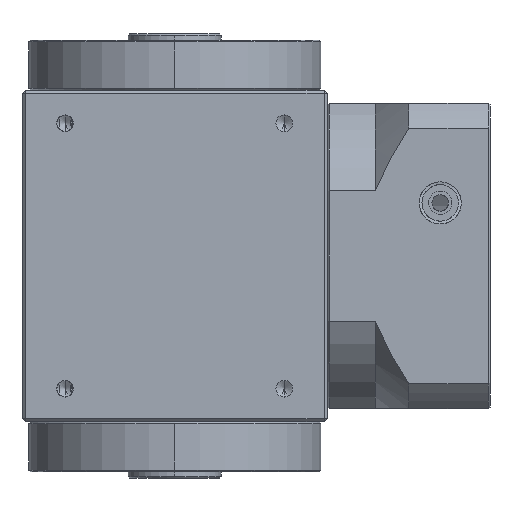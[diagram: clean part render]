
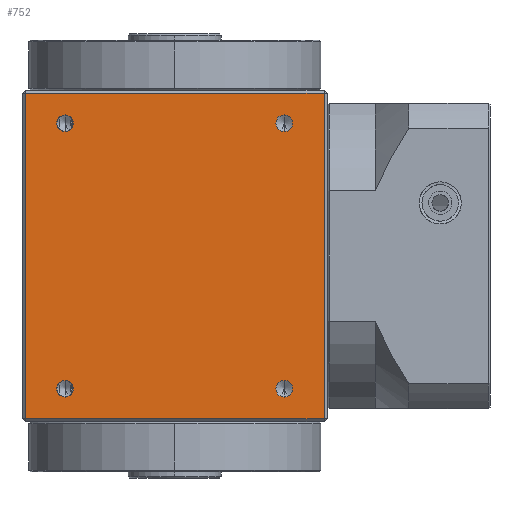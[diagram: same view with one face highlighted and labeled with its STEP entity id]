
A CAD part, left-side view. The second image highlights one B-rep face of the part: STEP entity #752.
In plain terms, the highlighted planar face has unit normal (-1, 0, 0).
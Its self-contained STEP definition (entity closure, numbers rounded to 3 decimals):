
#29 = EDGE_CURVE ( 'NONE', #3888, #4023, #7490, .T. ) ;
#30 = EDGE_CURVE ( 'NONE', #4132, #3888, #7491, .T. ) ;
#31 = EDGE_CURVE ( 'NONE', #3957, #4132, #7496, .T. ) ;
#53 = AXIS2_PLACEMENT_3D ( 'NONE', #2895, #2894, #2893 ) ;
#68 = AXIS2_PLACEMENT_3D ( 'NONE', #556, #566, #564 ) ;
#69 = AXIS2_PLACEMENT_3D ( 'NONE', #7728, #7735, #7723 ) ;
#89 = AXIS2_PLACEMENT_3D ( 'NONE', #7504, #7516, #7514 ) ;
#182 = AXIS2_PLACEMENT_3D ( 'NONE', #5493, #5494, #5495 ) ;
#186 = AXIS2_PLACEMENT_3D ( 'NONE', #5490, #5491, #5492 ) ;
#478 = EDGE_CURVE ( 'NONE', #4035, #3960, #3305, .T. ) ;
#517 = EDGE_CURVE ( 'NONE', #1178, #1182, #3357, .T. ) ;
#556 = CARTESIAN_POINT ( 'NONE',  ( -46., -33., 40. ) ) ;
#564 = DIRECTION ( 'NONE',  ( 0., 0., 1. ) ) ;
#566 = DIRECTION ( 'NONE',  ( -1., 0., 0. ) ) ;
#651 = EDGE_CURVE ( 'NONE', #3966, #1164, #3364, .T. ) ;
#752 = ADVANCED_FACE ( 'NONE', ( #3419, #3432, #3425, #3427, #3430 ), #7509, .F. ) ;
#853 = EDGE_CURVE ( 'NONE', #3960, #4035, #3618, .T. ) ;
#854 = EDGE_CURVE ( 'NONE', #4010, #4071, #3628, .T. ) ;
#1164 = VERTEX_POINT ( 'NONE', #7760 ) ;
#1178 = VERTEX_POINT ( 'NONE', #7772 ) ;
#1182 = VERTEX_POINT ( 'NONE', #7776 ) ;
#2046 = CARTESIAN_POINT ( 'NONE',  ( -46., 33., 40. ) ) ;
#2047 = DIRECTION ( 'NONE',  ( -1., 0., 0. ) ) ;
#2048 = DIRECTION ( 'NONE',  ( 0., 0., 1. ) ) ;
#2443 = CARTESIAN_POINT ( 'NONE',  ( -46., 45., 49. ) ) ;
#2510 = CARTESIAN_POINT ( 'NONE',  ( -46., -45., -49. ) ) ;
#2513 = CARTESIAN_POINT ( 'NONE',  ( -46., 33., -37.5 ) ) ;
#2519 = CARTESIAN_POINT ( 'NONE',  ( -46., 33., 42.5 ) ) ;
#2563 = CARTESIAN_POINT ( 'NONE',  ( -46., -33., -37.5 ) ) ;
#2576 = CARTESIAN_POINT ( 'NONE',  ( -46., 45., -49. ) ) ;
#2588 = CARTESIAN_POINT ( 'NONE',  ( -46., 33., -42.5 ) ) ;
#2624 = CARTESIAN_POINT ( 'NONE',  ( -46., -33., -42.5 ) ) ;
#2678 = CARTESIAN_POINT ( 'NONE',  ( -46., -45., 49. ) ) ;
#2828 = CARTESIAN_POINT ( 'NONE',  ( -46., 46., 49. ) ) ;
#2833 = CARTESIAN_POINT ( 'NONE',  ( -46., -45., 50. ) ) ;
#2893 = DIRECTION ( 'NONE',  ( 0., 0., 1. ) ) ;
#2894 = DIRECTION ( 'NONE',  ( -1., 0., 0. ) ) ;
#2895 = CARTESIAN_POINT ( 'NONE',  ( -46., 33., -40. ) ) ;
#2938 = DIRECTION ( 'NONE',  ( 0., 0., -1. ) ) ;
#2987 = DIRECTION ( 'NONE',  ( 0., 1., 0. ) ) ;
#2988 = CARTESIAN_POINT ( 'NONE',  ( -46., 45., 50. ) ) ;
#2994 = DIRECTION ( 'NONE',  ( 0., 0., 1. ) ) ;
#3127 = EDGE_CURVE ( 'NONE', #1164, #3966, #5085, .T. ) ;
#3305 = CIRCLE ( 'NONE', #53, 2.5 ) ;
#3357 = CIRCLE ( 'NONE', #68, 2.5 ) ;
#3364 = CIRCLE ( 'NONE', #69, 2.5 ) ;
#3419 = FACE_BOUND ( 'NONE', #4180, .T. ) ;
#3425 = FACE_BOUND ( 'NONE', #4111, .T. ) ;
#3427 = FACE_BOUND ( 'NONE', #4191, .T. ) ;
#3430 = FACE_OUTER_BOUND ( 'NONE', #4198, .T. ) ;
#3432 = FACE_BOUND ( 'NONE', #4182, .T. ) ;
#3618 = CIRCLE ( 'NONE', #186, 2.5 ) ;
#3628 = CIRCLE ( 'NONE', #182, 2.5 ) ;
#3888 = VERTEX_POINT ( 'NONE', #2443 ) ;
#3957 = VERTEX_POINT ( 'NONE', #2510 ) ;
#3960 = VERTEX_POINT ( 'NONE', #2513 ) ;
#3966 = VERTEX_POINT ( 'NONE', #2519 ) ;
#4010 = VERTEX_POINT ( 'NONE', #2563 ) ;
#4023 = VERTEX_POINT ( 'NONE', #2576 ) ;
#4035 = VERTEX_POINT ( 'NONE', #2588 ) ;
#4071 = VERTEX_POINT ( 'NONE', #2624 ) ;
#4111 = EDGE_LOOP ( 'NONE', ( #6917, #6918 ) ) ;
#4132 = VERTEX_POINT ( 'NONE', #2678 ) ;
#4180 = EDGE_LOOP ( 'NONE', ( #4466, #4467 ) ) ;
#4182 = EDGE_LOOP ( 'NONE', ( #4468, #4469 ) ) ;
#4191 = EDGE_LOOP ( 'NONE', ( #6919, #6920 ) ) ;
#4198 = EDGE_LOOP ( 'NONE', ( #6921, #6922, #6923, #6924 ) ) ;
#4466 = ORIENTED_EDGE ( 'NONE', *, *, #853, .F. ) ;
#4467 = ORIENTED_EDGE ( 'NONE', *, *, #478, .F. ) ;
#4468 = ORIENTED_EDGE ( 'NONE', *, *, #651, .F. ) ;
#4469 = ORIENTED_EDGE ( 'NONE', *, *, #3127, .F. ) ;
#4541 = AXIS2_PLACEMENT_3D ( 'NONE', #2046, #2047, #2048 ) ;
#4605 = AXIS2_PLACEMENT_3D ( 'NONE', #6800, #6801, #6802 ) ;
#4606 = AXIS2_PLACEMENT_3D ( 'NONE', #6805, #6806, #6807 ) ;
#5085 = CIRCLE ( 'NONE', #4541, 2.5 ) ;
#5490 = CARTESIAN_POINT ( 'NONE',  ( -46., 33., -40. ) ) ;
#5491 = DIRECTION ( 'NONE',  ( -1., 0., 0. ) ) ;
#5492 = DIRECTION ( 'NONE',  ( 0., 0., 1. ) ) ;
#5493 = CARTESIAN_POINT ( 'NONE',  ( -46., -33., -40. ) ) ;
#5494 = DIRECTION ( 'NONE',  ( -1., 0., 0. ) ) ;
#5495 = DIRECTION ( 'NONE',  ( 0., 0., 1. ) ) ;
#6312 = EDGE_CURVE ( 'NONE', #4023, #3957, #7570, .T. ) ;
#6364 = EDGE_CURVE ( 'NONE', #1182, #1178, #7636, .T. ) ;
#6365 = EDGE_CURVE ( 'NONE', #4071, #4010, #7638, .T. ) ;
#6589 = CARTESIAN_POINT ( 'NONE',  ( -46., -46., -49. ) ) ;
#6590 = DIRECTION ( 'NONE',  ( 0., -1., 0. ) ) ;
#6800 = CARTESIAN_POINT ( 'NONE',  ( -46., -33., 40. ) ) ;
#6801 = DIRECTION ( 'NONE',  ( -1., 0., 0. ) ) ;
#6802 = DIRECTION ( 'NONE',  ( 0., 0., 1. ) ) ;
#6805 = CARTESIAN_POINT ( 'NONE',  ( -46., -33., -40. ) ) ;
#6806 = DIRECTION ( 'NONE',  ( -1., 0., 0. ) ) ;
#6807 = DIRECTION ( 'NONE',  ( 0., 0., 1. ) ) ;
#6917 = ORIENTED_EDGE ( 'NONE', *, *, #517, .F. ) ;
#6918 = ORIENTED_EDGE ( 'NONE', *, *, #6364, .F. ) ;
#6919 = ORIENTED_EDGE ( 'NONE', *, *, #854, .F. ) ;
#6920 = ORIENTED_EDGE ( 'NONE', *, *, #6365, .F. ) ;
#6921 = ORIENTED_EDGE ( 'NONE', *, *, #31, .T. ) ;
#6922 = ORIENTED_EDGE ( 'NONE', *, *, #30, .T. ) ;
#6923 = ORIENTED_EDGE ( 'NONE', *, *, #29, .T. ) ;
#6924 = ORIENTED_EDGE ( 'NONE', *, *, #6312, .T. ) ;
#7490 = LINE ( 'NONE', #2988, #7495 ) ;
#7491 = LINE ( 'NONE', #2828, #7497 ) ;
#7495 = VECTOR ( 'NONE', #2938, 1000. ) ;
#7496 = LINE ( 'NONE', #2833, #7499 ) ;
#7497 = VECTOR ( 'NONE', #2987, 1000. ) ;
#7499 = VECTOR ( 'NONE', #2994, 1000. ) ;
#7504 = CARTESIAN_POINT ( 'NONE',  ( -46., -46., 50. ) ) ;
#7509 = PLANE ( 'NONE',  #89 ) ;
#7514 = DIRECTION ( 'NONE',  ( 0., 0., -1. ) ) ;
#7516 = DIRECTION ( 'NONE',  ( 1., 0., 0. ) ) ;
#7570 = LINE ( 'NONE', #6589, #7572 ) ;
#7572 = VECTOR ( 'NONE', #6590, 1000. ) ;
#7636 = CIRCLE ( 'NONE', #4605, 2.5 ) ;
#7638 = CIRCLE ( 'NONE', #4606, 2.5 ) ;
#7723 = DIRECTION ( 'NONE',  ( 0., 0., 1. ) ) ;
#7728 = CARTESIAN_POINT ( 'NONE',  ( -46., 33., 40. ) ) ;
#7735 = DIRECTION ( 'NONE',  ( -1., 0., 0. ) ) ;
#7760 = CARTESIAN_POINT ( 'NONE',  ( -46., 33., 37.5 ) ) ;
#7772 = CARTESIAN_POINT ( 'NONE',  ( -46., -33., 42.5 ) ) ;
#7776 = CARTESIAN_POINT ( 'NONE',  ( -46., -33., 37.5 ) ) ;
